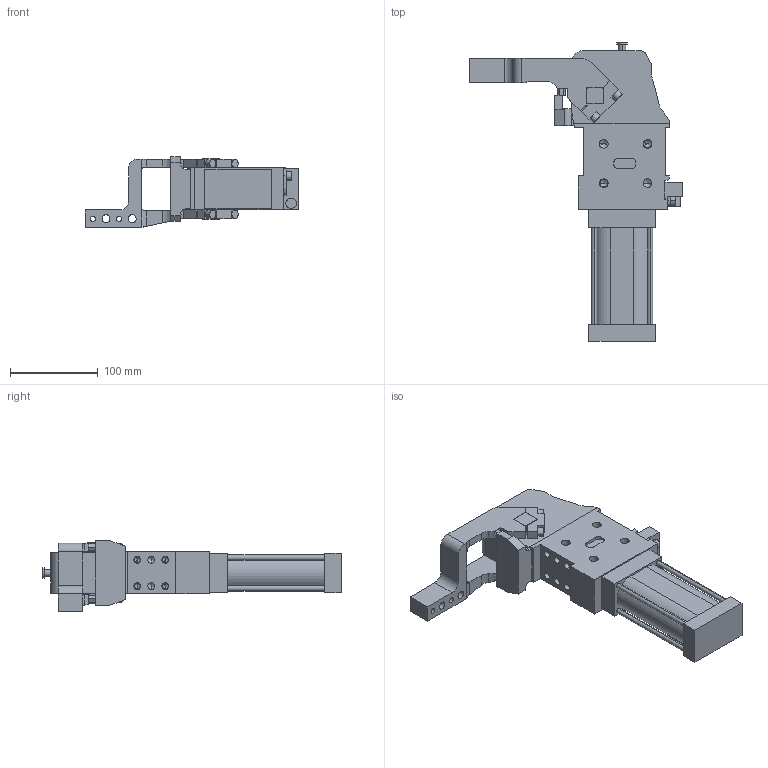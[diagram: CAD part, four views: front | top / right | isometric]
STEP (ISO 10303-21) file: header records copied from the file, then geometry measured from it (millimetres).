
FILE_DESCRIPTION (( 'STEP AP214' ), '1' );
FILE_NAME ('cpl50tv1di1g_135.STEP', '2023-01-26T08:57:30', ( '' ), ( '' ), 'SwSTEP 2.0', 'SolidWorks 2022', '' );
FILE_SCHEMA (( 'AUTOMOTIVE_DESIGN' ));
Length unit declared in the file: millimetre
Products named in the file (4): cpl50tv1di1g_135; blocchetto_VEP_0; meccanica_cpl_50_tassello_esterno; leva_v1d_cpl50t
Assembly tree (3 placements, depth 2):
  cpl50tv1di1g_135
    meccanica_cpl_50_tassello_esterno
    blocchetto_VEP_0
    leva_v1d_cpl50t
Bounding box: 244.5 x 341 x 81 mm (x, y, z)
Volume: 1419957.4 mm3; surface area: 170460.5 mm2
Topology: 3 solids, 3 shells, 436 faces, 1136 edges, 709 vertices
Faces by surface type: plane 228, cylinder 158, cone 50
Entity records: 14601 total; most frequent: CARTESIAN_POINT 2338, DIRECTION 2290, ORIENTED_EDGE 2180, EDGE_CURVE 1090, AXIS2_PLACEMENT_3D 771, LINE 748, VECTOR 748, VERTEX_POINT 709
